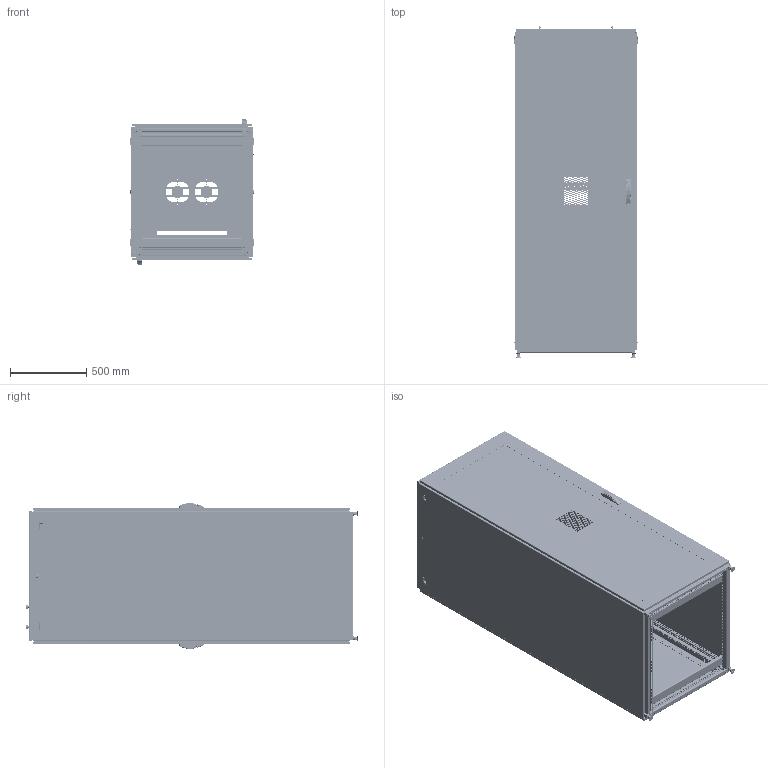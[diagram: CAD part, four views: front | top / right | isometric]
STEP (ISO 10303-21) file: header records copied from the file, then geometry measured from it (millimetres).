
FILE_DESCRIPTION (( 'STEP AP203' ), '1' );
FILE_NAME ('ps1c2189b.STEP', '2019-11-01T15:37:06', ( '' ), ( '' ), 'SwSTEP 2.0', 'SolidWorks 2016', '' );
FILE_SCHEMA (( 'CONFIG_CONTROL_DESIGN' ));
Length unit declared in the file: millimetre
Products named in the file (54): 87415413_87415413; 87411067; 60100041_60100041; 89168254_1 INCH SQUARE; 87790199; 30127079; 45129001_45129001; 89168563; 89093700; 87417023; 89168576_87788602; 89167114_89167114; 60127135_installed position SS; 87920638_87920638; 60127024_As installed; 89168569_87954630; 99411296_99411296; 89167116_89167116; 89093704; 87543196_Installed; 87415582; 89165528_59165528; 89091664_875472289; 60127013; 87753837_87753837; 89165778_89165778; 87562939_87562939; 11258733_Full Length flat; 89090299_87790201; 89168531; 56906712_56906712; 99401225; 60127101_After Weld; 30127061; 89090302; 89165540_87794135; 89101845; 89165870; 89092827; 87793688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
Assembly tree (149 placements, depth 5):
  ps1c2189b
    89165540_87794135
      60127013  x8
      89092827  x4
      30127079  x4
      30127061  x4
    60127024_As installed  x8
    87790199  x4
    87415413_87415413  x4
    89090302  x4
      89090300
        89090299_87790201
        60127135_installed position SS  x2
        87543196_Installed  x2
      60127199_60127199
      56906712_56906712
    89168563  x2
      89168566_21458568
        89168569_87954630
        60127101_After Weld  x2
        60100041_60100041  x2
          87931527_87931527
          87931368_SLEEVE
        87920638_87920638  x6
        89168576_87788602
      87562939_87562939
      89091664_875472289
      89101845
      87753837_87753837
      89165778_89165778
      89168254_1 INCH SQUARE
      89165870
    89093700  x2
      89093702
        89093704
        60100041_60100041  x2
          87931527_87931527
          87931368_SLEEVE
        99401225  x4
      87417023
      87411067
      87755569
      99411237_99411237
      87415582
    89168531
      89168540
        89168548
        60100041_60100041  x5
          87931527_87931527
          87931368_SLEEVE
        99415203_99401225  x4
      87793688  x2
      45129001_45129001  x4
      11258733_Full Length flat
      11258733_Full Length flat
    89165528_59165528  x4
    89167114_89167114  x2
    89167116_89167116  x2
    99411296_99411296  x4
    64127324  x4
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Bounding box: 812.48 x 2182.92 x 956.82 mm (x, y, z)
Volume: 20228619.4 mm3; surface area: 24381834.5 mm2
Topology: 225 solids, 265 shells, 35054 faces, 94244 edges, 60413 vertices
Faces by surface type: plane 17283, cylinder 12977, torus 2010, bspline 1830, cone 954
Entity records: 403570 total; most frequent: CARTESIAN_POINT 100642, ORIENTED_EDGE 61044, DIRECTION 60088, EDGE_CURVE 30524, AXIS2_PLACEMENT_3D 20779, VERTEX_POINT 19721, LINE 18530, VECTOR 18530
